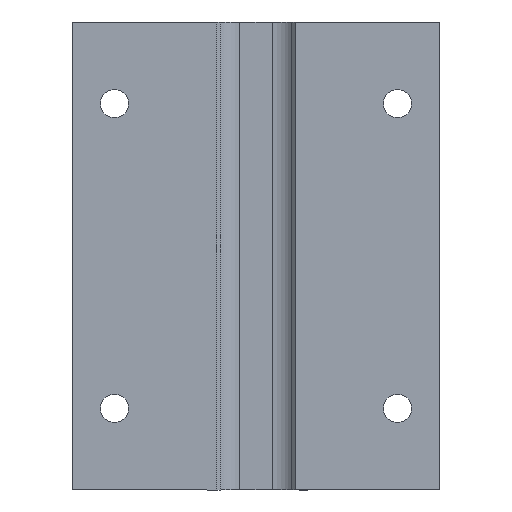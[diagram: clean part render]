
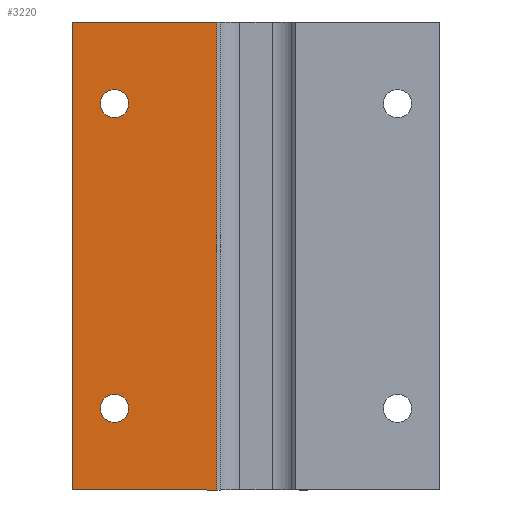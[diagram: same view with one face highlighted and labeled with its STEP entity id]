
A CAD part, front view. The second image highlights one B-rep face of the part: STEP entity #3220.
In plain terms, the highlighted planar face has unit normal (0, -1, 0).
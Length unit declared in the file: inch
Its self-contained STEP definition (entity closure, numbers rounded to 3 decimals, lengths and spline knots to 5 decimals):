
#165 = CARTESIAN_POINT ( 'NONE',  ( 2.79309, 3.94471, -0.88 ) ) ;
#262 = DIRECTION ( 'NONE',  ( 0., 0., -1. ) ) ;
#472 = CARTESIAN_POINT ( 'NONE',  ( 2.79309, 3.94471, -0.75 ) ) ;
#1679 = CARTESIAN_POINT ( 'NONE',  ( 2.79309, 3.94471, -3.55 ) ) ;
#2106 = CARTESIAN_POINT ( 'NONE',  ( 2.40559, 3.94471, 0. ) ) ;
#3081 = CIRCLE ( 'NONE', #14927, 0.13 ) ;
#3220 = ADVANCED_FACE ( 'NONE', ( #20015, #21573, #11101 ), #19735, .T. ) ;
#3546 = ORIENTED_EDGE ( 'NONE', *, *, #11402, .T. ) ;
#3912 = LINE ( 'NONE', #23356, #21529 ) ;
#5359 = EDGE_CURVE ( 'NONE', #18266, #16063, #3081, .T. ) ;
#5569 = VERTEX_POINT ( 'NONE', #12421 ) ;
#6044 = CARTESIAN_POINT ( 'NONE',  ( 3.73086, 3.94471, 0. ) ) ;
#6075 = DIRECTION ( 'NONE',  ( 0., 0., 1. ) ) ;
#6244 = VECTOR ( 'NONE', #25439, 39.37008 ) ;
#6589 = LINE ( 'NONE', #15368, #7038 ) ;
#6749 = ORIENTED_EDGE ( 'NONE', *, *, #5359, .T. ) ;
#7038 = VECTOR ( 'NONE', #23873, 39.37008 ) ;
#7409 = AXIS2_PLACEMENT_3D ( 'NONE', #21440, #10700, #23688 ) ;
#7935 = DIRECTION ( 'NONE',  ( 0., 0., -1. ) ) ;
#9177 = DIRECTION ( 'NONE',  ( 0., 0., -1. ) ) ;
#9523 = VERTEX_POINT ( 'NONE', #16613 ) ;
#9599 = ORIENTED_EDGE ( 'NONE', *, *, #19712, .T. ) ;
#9842 = CARTESIAN_POINT ( 'NONE',  ( 2.79309, 3.94471, -3.68 ) ) ;
#9879 = CARTESIAN_POINT ( 'NONE',  ( 2.79309, 3.94471, -3.42 ) ) ;
#10700 = DIRECTION ( 'NONE',  ( 0., 1., 0. ) ) ;
#11034 = CIRCLE ( 'NONE', #25973, 0.13 ) ;
#11066 = CARTESIAN_POINT ( 'NONE',  ( 2.79309, 3.94471, -0.62 ) ) ;
#11101 = FACE_BOUND ( 'NONE', #26771, .T. ) ;
#11388 = VERTEX_POINT ( 'NONE', #165 ) ;
#11402 = EDGE_CURVE ( 'NONE', #16063, #18266, #11034, .T. ) ;
#11433 = EDGE_CURVE ( 'NONE', #13253, #11388, #24131, .T. ) ;
#11962 = AXIS2_PLACEMENT_3D ( 'NONE', #472, #19387, #9177 ) ;
#12075 = EDGE_CURVE ( 'NONE', #11388, #13253, #14232, .T. ) ;
#12421 = CARTESIAN_POINT ( 'NONE',  ( 2.40559, 3.94471, 0. ) ) ;
#13253 = VERTEX_POINT ( 'NONE', #11066 ) ;
#13813 = ORIENTED_EDGE ( 'NONE', *, *, #20426, .T. ) ;
#13956 = CARTESIAN_POINT ( 'NONE',  ( 3.73086, 3.94471, -4.3 ) ) ;
#14232 = CIRCLE ( 'NONE', #11962, 0.13 ) ;
#14283 = ORIENTED_EDGE ( 'NONE', *, *, #11433, .T. ) ;
#14927 = AXIS2_PLACEMENT_3D ( 'NONE', #18854, #19281, #7935 ) ;
#15368 = CARTESIAN_POINT ( 'NONE',  ( 2.40559, 3.94471, 0. ) ) ;
#15900 = ORIENTED_EDGE ( 'NONE', *, *, #12075, .T. ) ;
#16063 = VERTEX_POINT ( 'NONE', #9842 ) ;
#16331 = EDGE_LOOP ( 'NONE', ( #15900, #14283 ) ) ;
#16403 = VECTOR ( 'NONE', #26637, 39.37008 ) ;
#16613 = CARTESIAN_POINT ( 'NONE',  ( 2.40559, 3.94471, -4.3 ) ) ;
#16911 = CARTESIAN_POINT ( 'NONE',  ( 4.0931, 3.94471, -4.3 ) ) ;
#17328 = DIRECTION ( 'NONE',  ( 0., 0., -1. ) ) ;
#17367 = VERTEX_POINT ( 'NONE', #6044 ) ;
#17846 = LINE ( 'NONE', #20356, #16403 ) ;
#18266 = VERTEX_POINT ( 'NONE', #9879 ) ;
#18854 = CARTESIAN_POINT ( 'NONE',  ( 2.79309, 3.94471, -3.55 ) ) ;
#19023 = EDGE_CURVE ( 'NONE', #5569, #9523, #6589, .T. ) ;
#19061 = LINE ( 'NONE', #16911, #6244 ) ;
#19281 = DIRECTION ( 'NONE',  ( 0., 1., 0. ) ) ;
#19387 = DIRECTION ( 'NONE',  ( 0., 1., 0. ) ) ;
#19712 = EDGE_CURVE ( 'NONE', #9523, #23614, #19061, .T. ) ;
#19735 = PLANE ( 'NONE',  #24236 ) ;
#19877 = DIRECTION ( 'NONE',  ( 0., -1., 0. ) ) ;
#20015 = FACE_OUTER_BOUND ( 'NONE', #25693, .T. ) ;
#20356 = CARTESIAN_POINT ( 'NONE',  ( 4.0931, 3.94471, 0. ) ) ;
#20426 = EDGE_CURVE ( 'NONE', #23614, #17367, #3912, .T. ) ;
#21440 = CARTESIAN_POINT ( 'NONE',  ( 2.79309, 3.94471, -0.75 ) ) ;
#21529 = VECTOR ( 'NONE', #6075, 39.37008 ) ;
#21573 = FACE_BOUND ( 'NONE', #16331, .T. ) ;
#22080 = ORIENTED_EDGE ( 'NONE', *, *, #26472, .F. ) ;
#23356 = CARTESIAN_POINT ( 'NONE',  ( 3.73086, 3.94471, 0. ) ) ;
#23614 = VERTEX_POINT ( 'NONE', #13956 ) ;
#23688 = DIRECTION ( 'NONE',  ( 0., 0., -1. ) ) ;
#23873 = DIRECTION ( 'NONE',  ( 0., 0., -1. ) ) ;
#24131 = CIRCLE ( 'NONE', #7409, 0.13 ) ;
#24236 = AXIS2_PLACEMENT_3D ( 'NONE', #2106, #19877, #262 ) ;
#24951 = ORIENTED_EDGE ( 'NONE', *, *, #19023, .T. ) ;
#25439 = DIRECTION ( 'NONE',  ( 1., 0., 0. ) ) ;
#25693 = EDGE_LOOP ( 'NONE', ( #24951, #9599, #13813, #22080 ) ) ;
#25973 = AXIS2_PLACEMENT_3D ( 'NONE', #1679, #27843, #17328 ) ;
#26472 = EDGE_CURVE ( 'NONE', #5569, #17367, #17846, .T. ) ;
#26637 = DIRECTION ( 'NONE',  ( 1., 0., 0. ) ) ;
#26771 = EDGE_LOOP ( 'NONE', ( #3546, #6749 ) ) ;
#27843 = DIRECTION ( 'NONE',  ( 0., 1., 0. ) ) ;
